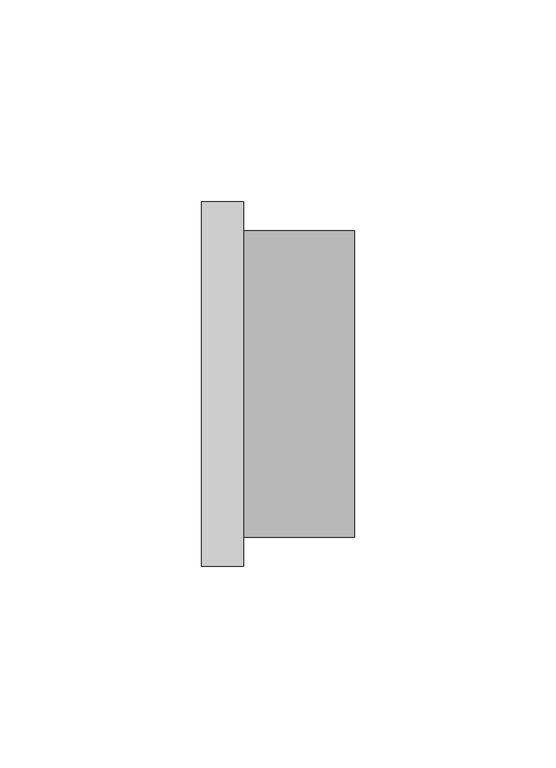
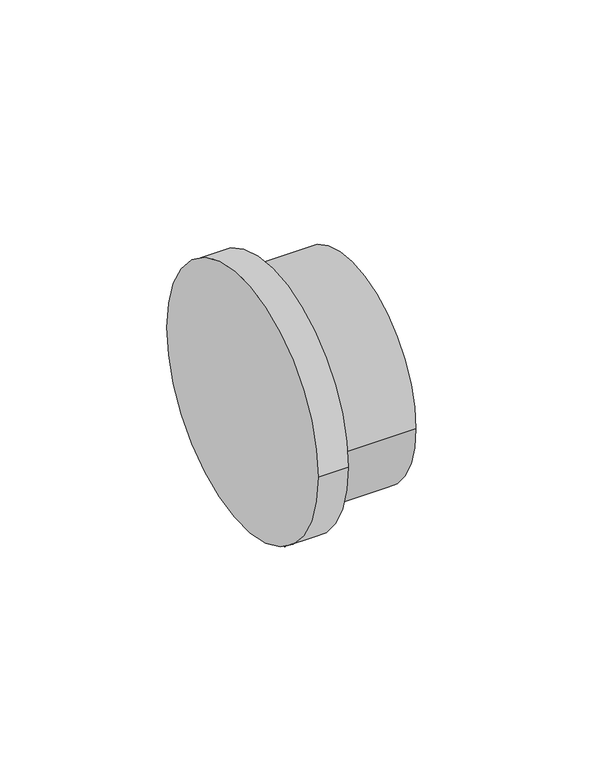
"""IFC4 building model written with IfcOpenShell, lengths in millimetres: pipe fitting geometry, NIRON RED termofusion casquillo : Estándar."""

from ifc_helpers import new_model, si_unit, point, frame, origin, origin_2d, place, context, project, spatial, circle_curve, trimmed, segment, composite_curve, outline, extrude, source, transform, mapped, element, save


def pipe_fitting_877ae160(model_context):
    return source(origin(), model_context, "Body", "SweptSolid", [
        extrude(outline(composite_curve([segment(trimmed(circle_curve(origin_2d(), 38.0), [point((38.0, 0.0))], [point((-38.0, 0.0))], False, "CARTESIAN"), True, "CONTINUOUS"), segment(trimmed(circle_curve(origin_2d(), 38.0), [point((-38.0, 0.0))], [point((38.0, 0.0))], False, "CARTESIAN"), True, "CONTINUOUS")], self_intersect=False)), frame((10.5, 0.0, 0.0), z_axis=(1.0, 0.0, 0.0), x_axis=(0.0, 1.0, 0.0)), (0.0, 0.0, 1.0), 27.5),
        extrude(outline(composite_curve([segment(trimmed(circle_curve(origin_2d(), 45.25), [point((-45.25, 0.0))], [point((45.25, 0.0))], False, "CARTESIAN"), True, "CONTINUOUS"), segment(trimmed(circle_curve(origin_2d(), 45.25), [point((45.25, 0.0))], [point((-45.25, 0.0))], False, "CARTESIAN"), True, "CONTINUOUS")], self_intersect=False)), frame((0.0, 0.0, 0.0), z_axis=(1.0, 0.0, 0.0), x_axis=(0.0, 1.0, 0.0)), (0.0, 0.0, 1.0), 10.5),
    ])


if __name__ == "__main__":
    model = new_model("IFC4")
    model_context = context("Model", 3, world=origin())
    ifc_project = project(units=[si_unit("LENGTHUNIT", "METRE", prefix="MILLI")], contexts=[model_context])
    site = spatial("IfcSite", under=ifc_project)
    building = spatial("IfcBuilding", under=site)
    placement = place(None, origin())
    pipe_fitting_shape = pipe_fitting_877ae160(model_context)
    element("IfcPipeFitting", 1, ObjectType="NIRON RED termofusion casquillo : Estándar", at=placement, inside=building, context=model_context, shape_type="MappedRepresentation", body=[
        mapped(pipe_fitting_shape, transform((0.0, 0.0, 0.0), x_axis=(1.0, 0.0, 0.0), y_axis=(0.0, 1.0, 0.0), z_axis=(0.0, 0.0, 1.0))),
    ])
    save(model, "model.ifc")
